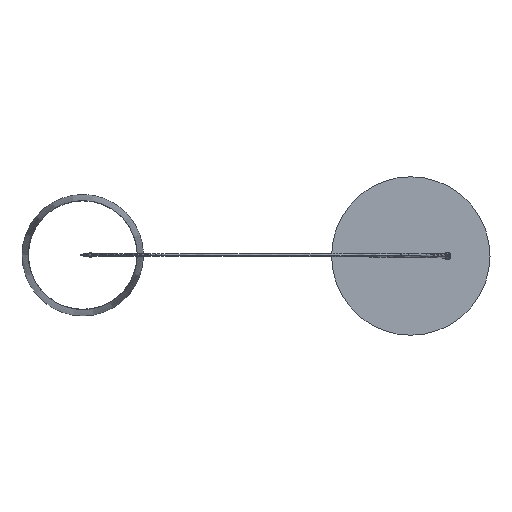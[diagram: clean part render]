
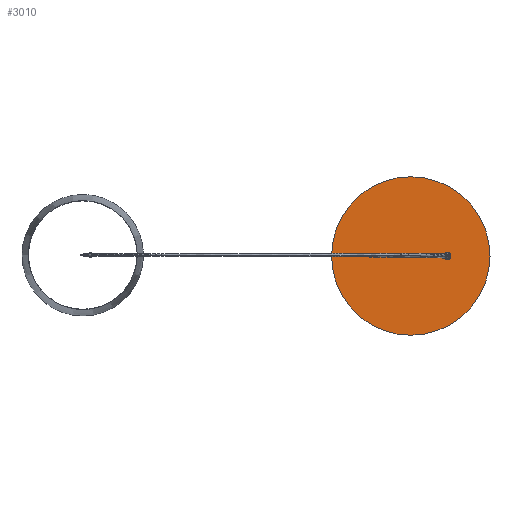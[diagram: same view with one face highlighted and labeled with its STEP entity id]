
A CAD part, top view. The second image highlights one B-rep face of the part: STEP entity #3010.
In plain terms, the highlighted planar face has unit normal (0, 0, 1).
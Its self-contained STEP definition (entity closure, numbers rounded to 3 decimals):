
#87 = AXIS2_PLACEMENT_3D ( 'NONE', #17862, #2123, #7930 ) ;
#310 = CARTESIAN_POINT ( 'NONE',  ( 1115.463, 18.94, -1879.548 ) ) ;
#363 = CARTESIAN_POINT ( 'NONE',  ( 1247.463, 18.94, -1879.493 ) ) ;
#855 = CIRCLE ( 'NONE', #12937, 4.25 ) ;
#1551 = PLANE ( 'NONE',  #17051 ) ;
#1981 = AXIS2_PLACEMENT_3D ( 'NONE', #3507, #3408, #6736 ) ;
#2123 = DIRECTION ( 'NONE',  ( 0., 0., 1. ) ) ;
#2477 = EDGE_CURVE ( 'NONE', #14637, #5319, #855, .T. ) ;
#2524 = AXIS2_PLACEMENT_3D ( 'NONE', #363, #8882, #16347 ) ;
#2796 = CIRCLE ( 'NONE', #7659, 2. ) ;
#2988 = DIRECTION ( 'NONE',  ( -1., 0., 0. ) ) ;
#3010 = ADVANCED_FACE ( 'NONE', ( #16763, #9580, #8329 ), #1551, .T. ) ;
#3110 = EDGE_LOOP ( 'NONE', ( #9728, #6897 ) ) ;
#3408 = DIRECTION ( 'NONE',  ( 0., 0., 1. ) ) ;
#3499 = VERTEX_POINT ( 'NONE', #6793 ) ;
#3507 = CARTESIAN_POINT ( 'NONE',  ( 1255.463, 18.94, -1879.49 ) ) ;
#3771 = DIRECTION ( 'NONE',  ( -1., 0., 0. ) ) ;
#4492 = CARTESIAN_POINT ( 'NONE',  ( 1255.463, 18.94, -1879.49 ) ) ;
#4682 = DIRECTION ( 'NONE',  ( -1., 0., 0. ) ) ;
#4782 = DIRECTION ( 'NONE',  ( 0., 0., 1. ) ) ;
#5218 = CARTESIAN_POINT ( 'NONE',  ( 1247.463, 18.94, -1879.493 ) ) ;
#5319 = VERTEX_POINT ( 'NONE', #8162 ) ;
#5423 = CARTESIAN_POINT ( 'NONE',  ( 1245.463, 18.94, -1879.494 ) ) ;
#5517 = DIRECTION ( 'NONE',  ( 0., 0., 1. ) ) ;
#6736 = DIRECTION ( 'NONE',  ( -1., 0., 0. ) ) ;
#6793 = CARTESIAN_POINT ( 'NONE',  ( 815.463, 18.94, -1879.671 ) ) ;
#6897 = ORIENTED_EDGE ( 'NONE', *, *, #2477, .F. ) ;
#7120 = EDGE_CURVE ( 'NONE', #5319, #14637, #11082, .T. ) ;
#7236 = DIRECTION ( 'NONE',  ( 0., 0., 1. ) ) ;
#7422 = VERTEX_POINT ( 'NONE', #5423 ) ;
#7659 = AXIS2_PLACEMENT_3D ( 'NONE', #5218, #16736, #3771 ) ;
#7780 = ORIENTED_EDGE ( 'NONE', *, *, #16788, .F. ) ;
#7930 = DIRECTION ( 'NONE',  ( -1., 0., 0. ) ) ;
#7931 = EDGE_CURVE ( 'NONE', #16819, #7422, #2796, .T. ) ;
#8162 = CARTESIAN_POINT ( 'NONE',  ( 1251.213, 18.94, -1879.492 ) ) ;
#8262 = CIRCLE ( 'NONE', #87, 300. ) ;
#8329 = FACE_OUTER_BOUND ( 'NONE', #17023, .T. ) ;
#8882 = DIRECTION ( 'NONE',  ( 0., 0., 1. ) ) ;
#8968 = ORIENTED_EDGE ( 'NONE', *, *, #7931, .F. ) ;
#9466 = CARTESIAN_POINT ( 'NONE',  ( 1249.463, 18.94, -1879.493 ) ) ;
#9580 = FACE_BOUND ( 'NONE', #3110, .T. ) ;
#9711 = AXIS2_PLACEMENT_3D ( 'NONE', #310, #4782, #4682 ) ;
#9728 = ORIENTED_EDGE ( 'NONE', *, *, #7120, .F. ) ;
#10439 = ORIENTED_EDGE ( 'NONE', *, *, #17595, .T. ) ;
#11082 = CIRCLE ( 'NONE', #1981, 4.25 ) ;
#11192 = CARTESIAN_POINT ( 'NONE',  ( 1415.463, 18.94, -1879.424 ) ) ;
#11966 = CARTESIAN_POINT ( 'NONE',  ( 1259.713, 18.94, -1879.488 ) ) ;
#12937 = AXIS2_PLACEMENT_3D ( 'NONE', #4492, #7236, #13072 ) ;
#13072 = DIRECTION ( 'NONE',  ( -1., 0., 0. ) ) ;
#13325 = EDGE_CURVE ( 'NONE', #3499, #18276, #16958, .T. ) ;
#13977 = ORIENTED_EDGE ( 'NONE', *, *, #13325, .T. ) ;
#14177 = CARTESIAN_POINT ( 'NONE',  ( 1115.463, 18.94, -1879.548 ) ) ;
#14637 = VERTEX_POINT ( 'NONE', #11966 ) ;
#15237 = CIRCLE ( 'NONE', #2524, 2. ) ;
#16347 = DIRECTION ( 'NONE',  ( -1., 0., 0. ) ) ;
#16736 = DIRECTION ( 'NONE',  ( 0., 0., 1. ) ) ;
#16763 = FACE_BOUND ( 'NONE', #18299, .T. ) ;
#16788 = EDGE_CURVE ( 'NONE', #7422, #16819, #15237, .T. ) ;
#16819 = VERTEX_POINT ( 'NONE', #9466 ) ;
#16958 = CIRCLE ( 'NONE', #9711, 300. ) ;
#17023 = EDGE_LOOP ( 'NONE', ( #10439, #13977 ) ) ;
#17051 = AXIS2_PLACEMENT_3D ( 'NONE', #14177, #5517, #2988 ) ;
#17595 = EDGE_CURVE ( 'NONE', #18276, #3499, #8262, .T. ) ;
#17862 = CARTESIAN_POINT ( 'NONE',  ( 1115.463, 18.94, -1879.548 ) ) ;
#18276 = VERTEX_POINT ( 'NONE', #11192 ) ;
#18299 = EDGE_LOOP ( 'NONE', ( #7780, #8968 ) ) ;
